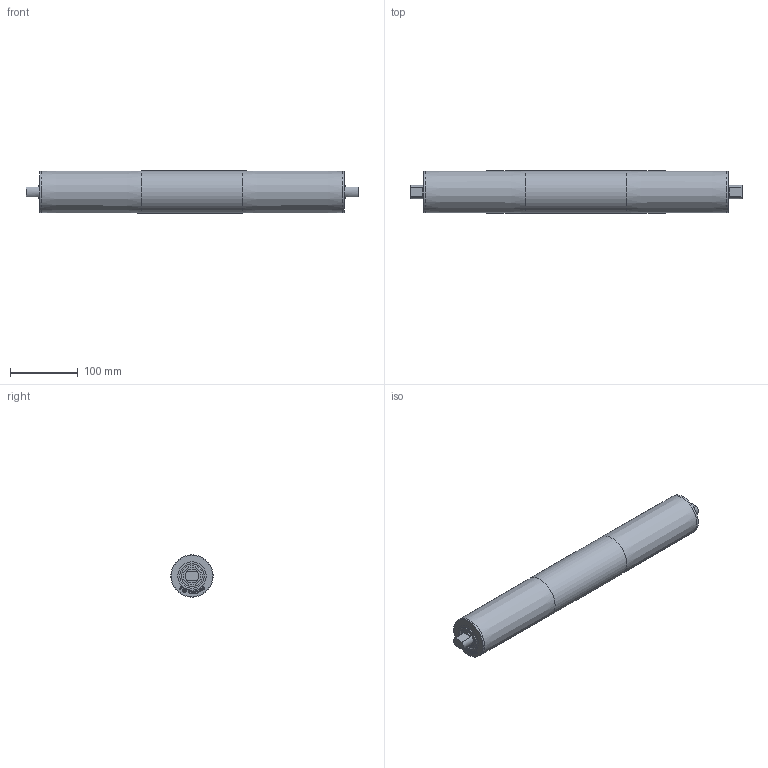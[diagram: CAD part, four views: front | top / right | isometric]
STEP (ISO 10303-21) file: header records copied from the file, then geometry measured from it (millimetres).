
FILE_DESCRIPTION(/* description */ (''),/* implementation_level */ '2;1');
FILE_NAME(/* name */ 'C:\WF_Ellegaard\Designs\00 standart komponenter\Tromlemotor\Scandrive S\Ø60\Scandrive S Ø60 RL450.stp',/* time_stamp */ '2017-04-19T17:52:22+02:00',/* author */ ('guh'),/* organization */ (''),/* preprocessor_version */ 'ST-DEVELOPER v15.6',/* originating_system */ 'Autodesk Inventor 2015',/* authorisation */ '');
FILE_SCHEMA (('AUTOMOTIVE_DESIGN { 1 0 10303 214 3 1 1 }'));
Length unit declared in the file: millimetre
Products named in the file (1): Scandrive S Ø60 RL450
Bounding box: 491 x 62.5 x 62.5 mm (x, y, z)
Volume: 336842.3 mm3; surface area: 178367.3 mm2
Topology: 1 solids, 2 shells, 450 faces, 1180 edges, 786 vertices
Faces by surface type: plane 234, bspline 196, cylinder 14, cone 4, torus 2
Full cylindrical faces by diameter (mm): 20 x2, 26 x2, 26.02 x2, 41.98 x2, 42 x2, 57 x1, 61.5 x2, 62.5 x1
Entity records: 14726 total; most frequent: CARTESIAN_POINT 4941, ORIENTED_EDGE 2316, DIRECTION 1320, EDGE_CURVE 1158, VERTEX_POINT 784, LINE 722, VECTOR 722, EDGE_LOOP 522
